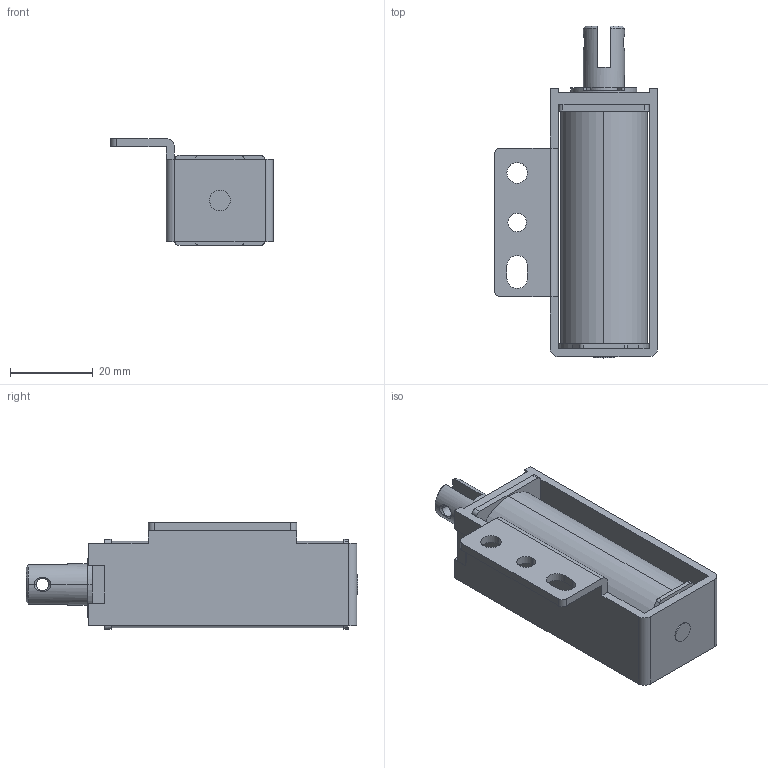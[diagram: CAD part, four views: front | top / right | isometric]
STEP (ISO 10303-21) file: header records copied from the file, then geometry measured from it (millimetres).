
FILE_DESCRIPTION (( 'STEP AP203' ), '1' );
FILE_NAME ('w_ca1064.STEP', '2014-07-14T02:24:18', ( 'jiba' ), ( 'Hewlett-Packard Company' ), 'SwSTEP 2.0', 'SolidWorks 2014', '' );
FILE_SCHEMA (( 'CONFIG_CONTROL_DESIGN' ));
Length unit declared in the file: millimetre
Products named in the file (3): Part22^w_ca1064; Part1^w_ca1064_pl; w_ca1064
Assembly tree (2 placements, depth 2):
  w_ca1064
    Part22^w_ca1064
    Part1^w_ca1064_pl
Bounding box: 39.5 x 80.4 x 25.9 mm (x, y, z)
Volume: 30014.1 mm3; surface area: 17582.7 mm2
Topology: 2 solids, 2 shells, 154 faces, 423 edges, 271 vertices
Faces by surface type: plane 80, cylinder 67, cone 7
Entity records: 5373 total; most frequent: CARTESIAN_POINT 985, DIRECTION 894, ORIENTED_EDGE 846, EDGE_CURVE 423, AXIS2_PLACEMENT_3D 320, VERTEX_POINT 271, VECTOR 254, LINE 254
